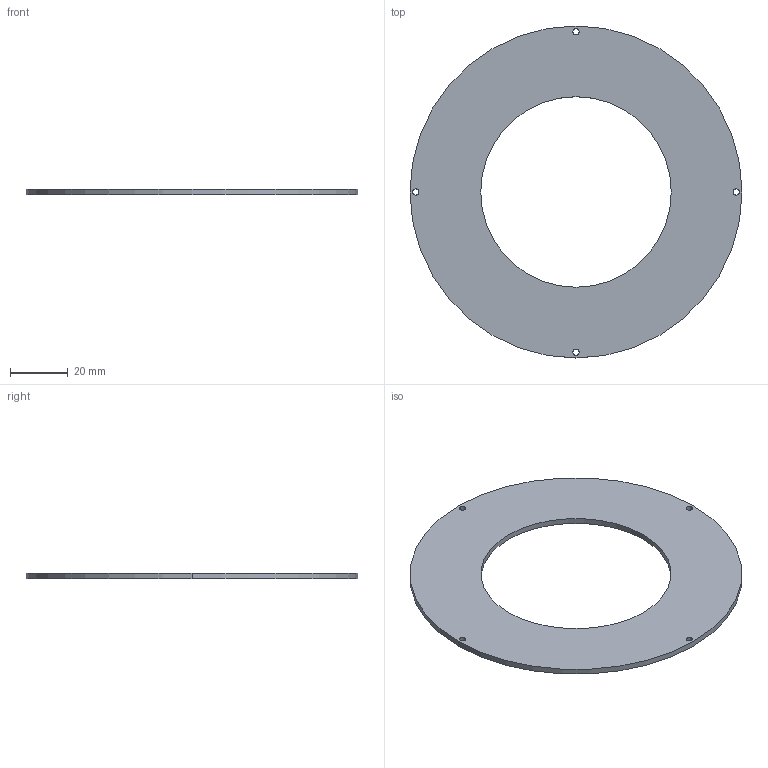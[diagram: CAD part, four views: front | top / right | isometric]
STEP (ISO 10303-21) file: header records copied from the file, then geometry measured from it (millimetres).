
FILE_DESCRIPTION (( 'STEP AP214' ), '1' );
FILE_NAME ('MILX-30-070-DIFFUSER.STEP', '2021-11-05T07:01:01', ( '' ), ( '' ), 'SwSTEP 2.0', 'SolidWorks 2021', '' );
FILE_SCHEMA (( 'AUTOMOTIVE_DESIGN' ));
Length unit declared in the file: millimetre
Products named in the file (1): MILX-30-070-DIFFUSER
Bounding box: 115 x 115 x 2 mm (x, y, z)
Volume: 13901 mm3; surface area: 15093.5 mm2
Topology: 1 solids, 1 shells, 14 faces, 36 edges, 24 vertices
Faces by surface type: cylinder 12, plane 2
Entity records: 498 total; most frequent: DIRECTION 90, CARTESIAN_POINT 75, ORIENTED_EDGE 72, AXIS2_PLACEMENT_3D 39, EDGE_CURVE 36, VERTEX_POINT 24, CIRCLE 24, EDGE_LOOP 24
